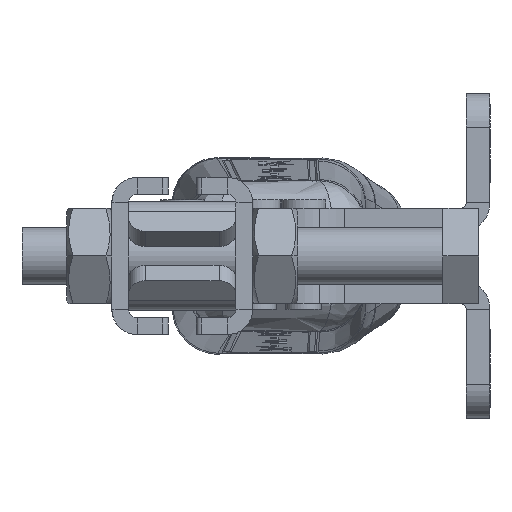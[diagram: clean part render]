
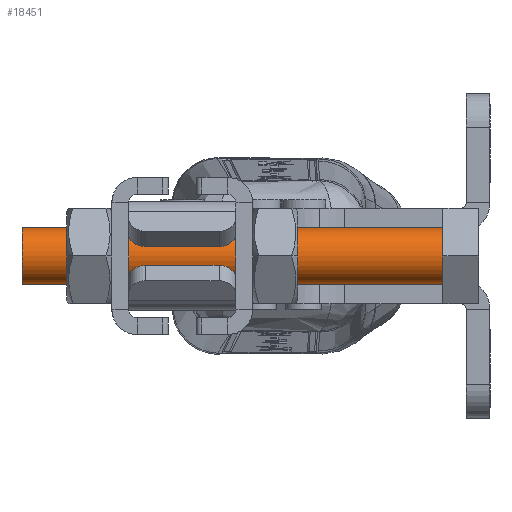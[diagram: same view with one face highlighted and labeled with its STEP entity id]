
A CAD part, left-side view. The second image highlights one B-rep face of the part: STEP entity #18451.
In plain terms, the highlighted cylindrical face has radius 5 mm (diameter 10 mm), a partial arc.
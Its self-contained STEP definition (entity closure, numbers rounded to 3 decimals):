
#1151 = ORIENTED_EDGE ( 'NONE', *, *, #1636, .T. ) ;
#1636 = EDGE_CURVE ( 'NONE', #9222, #25615, #14712, .T. ) ;
#1670 = DIRECTION ( 'NONE',  ( 0., 0., -1. ) ) ;
#2906 = ORIENTED_EDGE ( 'NONE', *, *, #15560, .T. ) ;
#4006 = EDGE_CURVE ( 'NONE', #4915, #25665, #16866, .T. ) ;
#4683 = DIRECTION ( 'NONE',  ( 0., -1., 0. ) ) ;
#4915 = VERTEX_POINT ( 'NONE', #25373 ) ;
#6021 = VECTOR ( 'NONE', #12714, 1000. ) ;
#7133 = AXIS2_PLACEMENT_3D ( 'NONE', #26129, #13916, #1670 ) ;
#8678 = VECTOR ( 'NONE', #21055, 1000. ) ;
#9222 = VERTEX_POINT ( 'NONE', #26047 ) ;
#9309 = CYLINDRICAL_SURFACE ( 'NONE', #23915, 5. ) ;
#9648 = CARTESIAN_POINT ( 'NONE',  ( 0., -75., 0. ) ) ;
#12714 = DIRECTION ( 'NONE',  ( 0., 1., 0. ) ) ;
#13625 = DIRECTION ( 'NONE',  ( 0., 1., 0. ) ) ;
#13916 = DIRECTION ( 'NONE',  ( 0., -1., 0. ) ) ;
#14256 = CARTESIAN_POINT ( 'NONE',  ( 0., 0., -5. ) ) ;
#14712 = LINE ( 'NONE', #18987, #8678 ) ;
#15560 = EDGE_CURVE ( 'NONE', #25615, #25665, #26437, .T. ) ;
#16829 = EDGE_LOOP ( 'NONE', ( #25768, #23622, #1151, #2906 ) ) ;
#16866 = LINE ( 'NONE', #24926, #6021 ) ;
#16893 = CARTESIAN_POINT ( 'NONE',  ( 0., 0., 0. ) ) ;
#18174 = CARTESIAN_POINT ( 'NONE',  ( 0., 0., 5. ) ) ;
#18451 = ADVANCED_FACE ( 'NONE', ( #20133 ), #9309, .T. ) ;
#18961 = DIRECTION ( 'NONE',  ( 0., 0., 1. ) ) ;
#18987 = CARTESIAN_POINT ( 'NONE',  ( 0., -75., 5. ) ) ;
#20133 = FACE_OUTER_BOUND ( 'NONE', #16829, .T. ) ;
#21055 = DIRECTION ( 'NONE',  ( 0., 1., 0. ) ) ;
#21205 = EDGE_CURVE ( 'NONE', #9222, #4915, #21342, .T. ) ;
#21342 = CIRCLE ( 'NONE', #7133, 5. ) ;
#23622 = ORIENTED_EDGE ( 'NONE', *, *, #21205, .F. ) ;
#23891 = DIRECTION ( 'NONE',  ( 0., 0., 1. ) ) ;
#23915 = AXIS2_PLACEMENT_3D ( 'NONE', #9648, #13625, #23891 ) ;
#24373 = AXIS2_PLACEMENT_3D ( 'NONE', #16893, #4683, #18961 ) ;
#24926 = CARTESIAN_POINT ( 'NONE',  ( 0., -75., -5. ) ) ;
#25373 = CARTESIAN_POINT ( 'NONE',  ( 0., -75., -5. ) ) ;
#25615 = VERTEX_POINT ( 'NONE', #18174 ) ;
#25665 = VERTEX_POINT ( 'NONE', #14256 ) ;
#25768 = ORIENTED_EDGE ( 'NONE', *, *, #4006, .F. ) ;
#26047 = CARTESIAN_POINT ( 'NONE',  ( 0., -75., 5. ) ) ;
#26129 = CARTESIAN_POINT ( 'NONE',  ( 0., -75., 0. ) ) ;
#26437 = CIRCLE ( 'NONE', #24373, 5. ) ;
